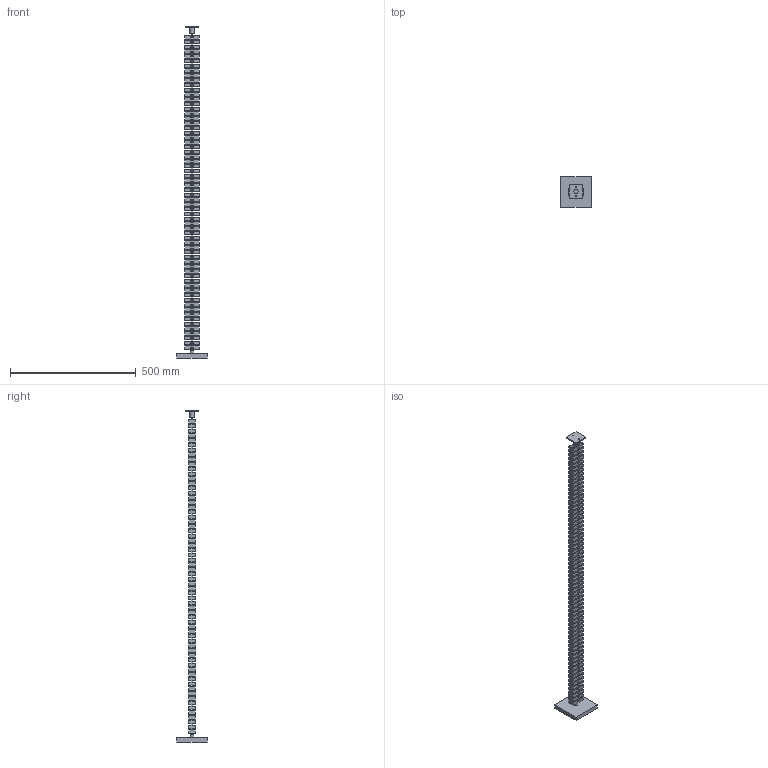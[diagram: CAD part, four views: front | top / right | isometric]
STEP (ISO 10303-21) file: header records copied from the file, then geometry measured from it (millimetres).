
FILE_DESCRIPTION( ( 'STEP AP214' ), '1' );
FILE_NAME( 'C:/Users/KOSH/Desktop/New folder/2021/Actiforce/Export/9309812.stp', '2021-12-03T09:44:16', ( '' ), ( '' ), ' ', 'PARTsolutions', ' ' );
FILE_SCHEMA( ( 'AUTOMOTIVE_DESIGN { 1 0 10303 214 1 1 1 1 }' ) );
Length unit declared in the file: millimetre
Products named in the file (1): _9309812
Bounding box: 120 x 120 x 1321 mm (x, y, z)
Volume: 772442.2 mm3; surface area: 438586.6 mm2
Topology: 1 solids, 1 shells, 1738 faces, 4803 edges, 3203 vertices
Faces by surface type: plane 1602, cylinder 136
Full cylindrical faces by diameter (mm): 4.3 x2, 15.04 x1, 16.257 x1
Entity records: 68364 total; most frequent: CARTESIAN_POINT 9735, ORIENTED_EDGE 9592, DIRECTION 8546, EDGE_CURVE 4796, LINE 4524, VECTOR 4524, VERTEX_POINT 3200, AXIS2_PLACEMENT_3D 2011
